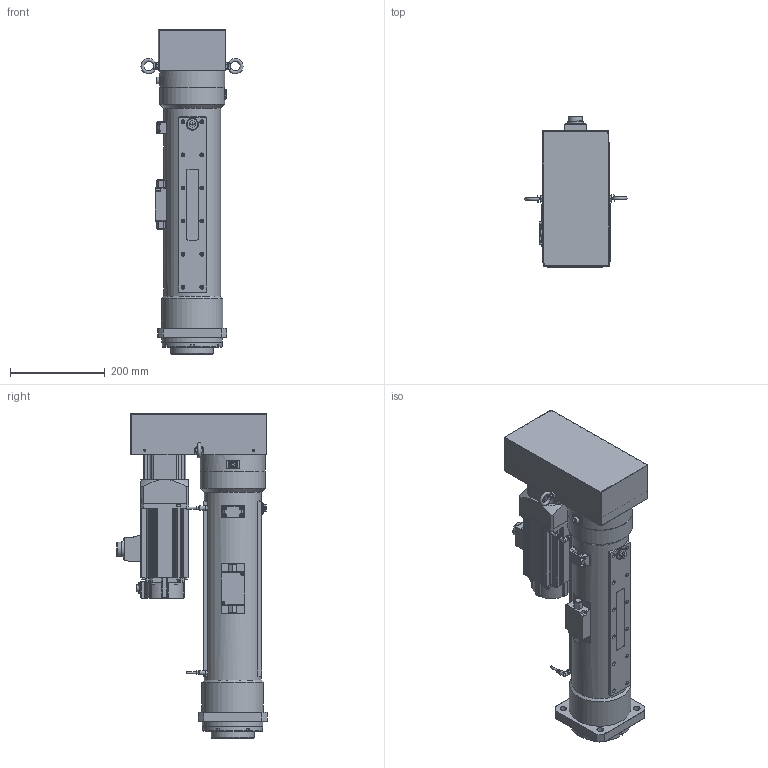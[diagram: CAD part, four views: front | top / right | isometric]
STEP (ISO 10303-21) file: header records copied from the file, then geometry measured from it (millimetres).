
FILE_DESCRIPTION(/* description */ (''),/* implementation_level */ '2;1');
FILE_NAME(/* name */ 'Z:\07.Product\01.Design\3D\1.P-All\OAICS-P\0000.Assembly\OACIS-P040-300-150-A6V200_v10.30.stp',/* time_stamp */ '2023-03-03T10:35:48+09:00',/* author */ ('magic'),/* organization */ (''),/* preprocessor_version */ 'ST-DEVELOPER v17',/* originating_system */ 'Autodesk Inventor 2019',/* authorisation */ '');
FILE_SCHEMA (('AUTOMOTIVE_DESIGN { 1 0 10303 214 3 1 1 }'));
Products named in the file (1): OACIS-P040-300-150-A6_v10.30
Bounding box: 215.9 x 317.96 x 686 mm (x, y, z)
Volume: 8359968.5 mm3; surface area: 1238632.1 mm2
Topology: 2 solids, 2 shells, 2302 faces, 6164 edges, 4073 vertices
Faces by surface type: plane 1033, cylinder 773, cone 257, bspline 120, sphere 60, torus 59
Full cylindrical faces by diameter (mm): 1 x6, 3.242 x42, 4.134 x4, 4.5 x38, 4.917 x13, 5 x2, 5.8 x2, 6.6 x4, 6.647 x20, 6.7 x2, 6.75 x4, 6.8 x1, 7 x12, 7.2 x2, 7.24 x2, 7.8 x2, 8 x42, 8.4 x1, 8.7 x1, 9 x20, 9.188 x1, 9.5 x4, 10 x2, 10.106 x8, 14 x13, 14.8 x1, 14.95 x1, 22 x1, 25.4 x1, 26 x1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
Entity records: 87028 total; most frequent: CARTESIAN_POINT 26301, DIRECTION 12332, ORIENTED_EDGE 12140, EDGE_CURVE 6070, AXIS2_PLACEMENT_3D 4677, VERTEX_POINT 4073, LINE 2978, VECTOR 2978
